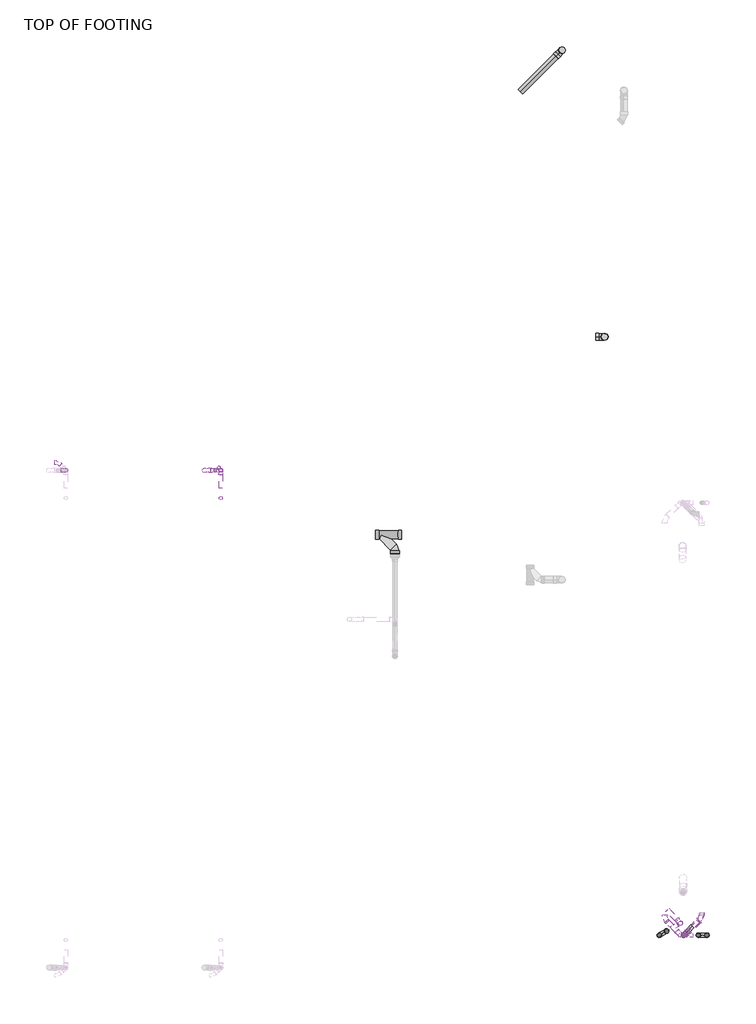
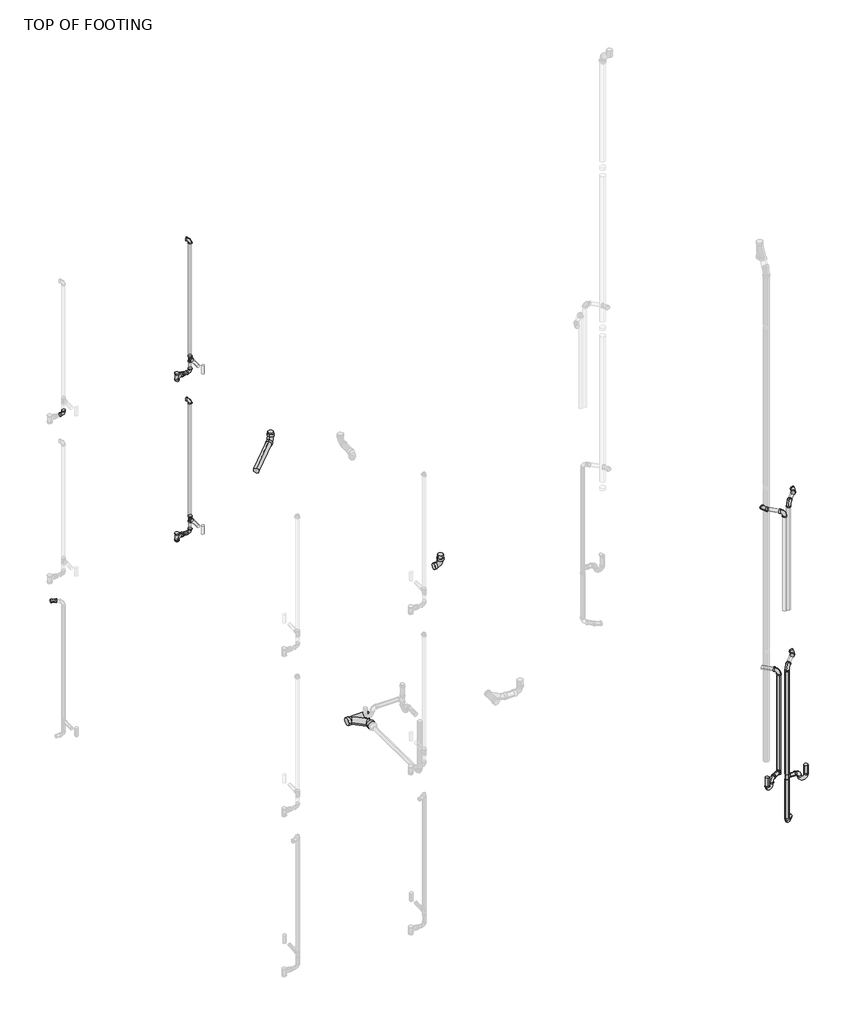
# One storey, part 6 of 8: 27 pipe fittings, 27 pipe segments.
"""IFC4 building model written with IfcOpenShell, lengths in millimetres."""

from ifc_helpers import new_model, si_unit, point, frame, frame_2d, origin, place, context, project, spatial, circle_curve, trimmed, segment, composite_curve, outline, extrude, transform, mapped, element, save
from components import bend_pvc_sch_40_dwv_standard_738aab8b, bend_pvc_sch_40_dwv_standard_9377f51f, bend_pvc_sch_40_dwv_standard_e59a9f3a, bend_pvc_sch_40_dwv_standard_f2f5988a, bend_pvc_sch_40_dwv_standard_afcfb702, bend_pvc_sch_40_dwv_standard_c5e05de8, bend_pvc_sch_40_dwv_standard_3c31cd25, bend_pvc_sch_40_dwv_standard_1eaeee76, bend_pvc_sch_40_dwv_standard_49f8c181, bend_pvc_sch_40_dwv_standard_f64d1520, bend_pvc_sch_40_dwv_standard_88107920, pipe_tee_copper_k_caf9fbed, pipe_tee_copper_k_86eab680, reducer_pvc_sch_40_dwv_standard_f288b410, standard_73d07651, standard_8c31f35f, tee_sanitary_pvc_sch_40_dwv_standard_ad422280, tee_sanitary_pvc_sch_40_dwv_standard_7b7ecc20, wye_combination_with_8th_bend_pvc_sch_40_dwv_standard_38fa7586

model = new_model("IFC4")

# Units and contexts
model_context = context("Model", 3, world=origin())
ifc_project = project(units=[si_unit("LENGTHUNIT", "METRE", prefix="MILLI")], contexts=[model_context])

# Site, building, storey
site = spatial("IfcSite", under=ifc_project)
building = spatial("IfcBuilding", under=site)
storey = spatial("IfcBuildingStorey", under=building, Name="TOP OF FOOTING", Elevation=-762.0)

# Pipe fittings
placement = place(None, origin())
bend_pvc_sch_40_dwv_standard_shape = bend_pvc_sch_40_dwv_standard_738aab8b(model_context)
element("IfcPipeFitting", 1, ObjectType="Bend - PVC - Sch 40 - DWV : Standard", at=placement, inside=storey, context=model_context, shape_type="MappedRepresentation", body=[
    mapped(bend_pvc_sch_40_dwv_standard_shape, transform((8467.5209875, 8911.4608349, 6026.9617935), x_axis=(1.0, 0.0, 0.0), y_axis=(0.0, 0.0, 1.0), z_axis=(0.0, -1.0, 0.0))),
])
element("IfcPipeFitting", 2, ObjectType="Bend - PVC - Sch 40 - DWV : Standard", at=placement, inside=storey, context=model_context, shape_type="MappedRepresentation", body=[
    mapped(bend_pvc_sch_40_dwv_standard_shape, transform((10595.0959875, 8911.527761, 3182.1617935), x_axis=(1.0, 0.0, 0.0), y_axis=(0.0, 9.717920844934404e-07, 0.9999999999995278), z_axis=(0.0, -0.9999999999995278, 9.717920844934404e-07))),
])
element("IfcPipeFitting", 3, ObjectType="Bend - PVC - Sch 40 - DWV : Standard", at=placement, inside=storey, context=model_context, shape_type="MappedRepresentation", body=[
    mapped(bend_pvc_sch_40_dwv_standard_shape, transform((10595.0959875, 8911.527761, 6026.9617935), x_axis=(1.0, 0.0, 0.0), y_axis=(0.0, 9.717921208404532e-07, 0.9999999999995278), z_axis=(0.0, -0.9999999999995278, 9.717921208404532e-07))),
])
bend_pvc_sch_40_dwv_standard_2_shape = bend_pvc_sch_40_dwv_standard_9377f51f(model_context)
element("IfcPipeFitting", 4, ObjectType="Bend - PVC - Sch 40 - DWV : Standard", at=placement, inside=storey, context=model_context, shape_type="MappedRepresentation", body=[
    mapped(bend_pvc_sch_40_dwv_standard_2_shape, transform((10595.1087024, 8911.5300734, 5527.4265087), x_axis=(0.0, 0.0, 1.0), y_axis=(-0.7070876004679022, 0.7071259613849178, 0.0), z_axis=(-0.7071259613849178, -0.7070876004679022, 0.0))),
])
element("IfcPipeFitting", 5, ObjectType="Bend - PVC - Sch 40 - DWV : Standard", at=placement, inside=storey, context=model_context, shape_type="MappedRepresentation", body=[
    mapped(bend_pvc_sch_40_dwv_standard_2_shape, transform((10595.1052501, 8911.5293768, 8371.9619664), x_axis=(0.0, 0.0, 1.0), y_axis=(-0.7070876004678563, 0.7071259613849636, 0.0), z_axis=(-0.7071259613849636, -0.7070876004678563, 0.0))),
])
bend_pvc_sch_40_dwv_standard_3_shape = bend_pvc_sch_40_dwv_standard_e59a9f3a(model_context)
element("IfcPipeFitting", 6, ObjectType="Bend - PVC - Sch 40 - DWV : Standard", at=placement, inside=storey, context=model_context, shape_type="MappedRepresentation", body=[
    mapped(bend_pvc_sch_40_dwv_standard_3_shape, transform((8361.3573795, 9017.693639, 2683.7325121), x_axis=(-0.7070684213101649, 0.7071067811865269, 0.007365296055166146), y_axis=(-0.7070684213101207, -0.7071067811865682, 0.007365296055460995), z_axis=(0.01041610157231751, 0.0, 0.9999457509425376))),
])
bend_pvc_sch_40_dwv_standard_4_shape = bend_pvc_sch_40_dwv_standard_f2f5988a(model_context)
element("IfcPipeFitting", 7, ObjectType="Bend - PVC - Sch 40 - DWV : Standard", at=placement, inside=storey, context=model_context, shape_type="MappedRepresentation", body=[
    mapped(bend_pvc_sch_40_dwv_standard_4_shape, transform((16688.3084882, 2756.9013629, 5188.0113455), x_axis=(2.761384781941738e-10, -0.9999999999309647, 1.1750347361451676e-05), y_axis=(0.9999999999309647, 1.3806781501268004e-10, -1.1750347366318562e-05), z_axis=(1.1750347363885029e-05, 1.175034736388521e-05, 0.9999999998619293))),
])
bend_pvc_sch_40_dwv_standard_5_shape = bend_pvc_sch_40_dwv_standard_afcfb702(model_context)
element("IfcPipeFitting", 8, ObjectType="Bend - PVC - Sch 40 - DWV : Standard", at=placement, inside=storey, context=model_context, shape_type="MappedRepresentation", body=[
    mapped(bend_pvc_sch_40_dwv_standard_5_shape, transform((16948.6402571, 2533.8032163, -332.0630039), x_axis=(-8.473962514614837e-06, -4.618834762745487e-06, -0.9999999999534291), y_axis=(0.7070876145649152, 0.7071259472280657, -9.257931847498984e-06), z_axis=(0.707125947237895, -0.7070876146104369, -2.7262379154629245e-06))),
])
bend_pvc_sch_40_dwv_standard_6_shape = bend_pvc_sch_40_dwv_standard_c5e05de8(model_context)
element("IfcPipeFitting", 9, ObjectType="Bend - PVC - Sch 40 - DWV : Standard", at=placement, inside=storey, context=model_context, shape_type="MappedRepresentation", body=[
    mapped(bend_pvc_sch_40_dwv_standard_6_shape, transform((15278.6009177, 14675.0362157, -316.1324987), x_axis=(0.0, 0.0, -1.0), y_axis=(-0.7071202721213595, -0.7070932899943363, 0.0), z_axis=(-0.7070932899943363, 0.7071202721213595, 0.0))),
])
bend_pvc_sch_40_dwv_standard_7_shape = bend_pvc_sch_40_dwv_standard_3c31cd25(model_context)
element("IfcPipeFitting", 10, ObjectType="Bend - PVC - Sch 40 - DWV : Standard", at=placement, inside=storey, context=model_context, shape_type="MappedRepresentation", body=[
    mapped(bend_pvc_sch_40_dwv_standard_7_shape, transform((15863.1187952, 10743.5791105, -344.490207), x_axis=(0.0, 0.0, -1.0), y_axis=(-1.0, 0.0, 0.0), z_axis=(0.0, 1.0, 0.0))),
])
bend_pvc_sch_40_dwv_standard_8_shape = bend_pvc_sch_40_dwv_standard_1eaeee76(model_context)
element("IfcPipeFitting", 11, ObjectType="Bend - PVC - Sch 40 - DWV : Standard", at=placement, inside=storey, context=model_context, shape_type="MappedRepresentation", body=[
    mapped(bend_pvc_sch_40_dwv_standard_8_shape, transform((16904.9190809, 2698.3170128, 2285.9947608), x_axis=(0.0, 0.0, 1.0), y_axis=(-0.7071067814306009, 0.7071067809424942, 0.0), z_axis=(-0.7071067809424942, -0.7071067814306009, 0.0))),
])
element("IfcPipeFitting", 12, ObjectType="Bend - PVC - Sch 40 - DWV : Standard", at=placement, inside=storey, context=model_context, shape_type="MappedRepresentation", body=[
    mapped(bend_pvc_sch_40_dwv_standard_8_shape, transform((16909.2449931, 2535.844278, 5187.9447608), x_axis=(0.0, 0.0, 1.0), y_axis=(-0.7071067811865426, 0.7071067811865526, 0.0), z_axis=(-0.7071067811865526, -0.7071067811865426, 0.0))),
])
bend_pvc_sch_40_dwv_standard_9_shape = bend_pvc_sch_40_dwv_standard_49f8c181(model_context)
element("IfcPipeFitting", 13, ObjectType="Bend - PVC - Sch 40 - DWV : Standard", at=placement, inside=storey, context=model_context, shape_type="MappedRepresentation", body=[
    mapped(bend_pvc_sch_40_dwv_standard_9_shape, transform((16975.4348028, 2535.4334002, 5340.345709), x_axis=(0.0, 0.0, 1.0), y_axis=(-0.7071067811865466, -0.7071067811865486, 0.0), z_axis=(0.7071067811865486, -0.7071067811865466, 0.0))),
])
bend_pvc_sch_40_dwv_standard_10_shape = bend_pvc_sch_40_dwv_standard_f64d1520(model_context)
element("IfcPipeFitting", 14, ObjectType="Bend - PVC - Sch 40 - DWV : Standard", at=placement, inside=storey, context=model_context, shape_type="MappedRepresentation", body=[
    mapped(bend_pvc_sch_40_dwv_standard_10_shape, transform((17195.9084874, 2781.0674092, 2438.3911908), x_axis=(2.761384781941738e-10, -0.9999999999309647, 1.1750347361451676e-05), y_axis=(0.9999999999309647, 1.3806781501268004e-10, -1.1750347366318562e-05), z_axis=(1.1750347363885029e-05, 1.175034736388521e-05, 0.9999999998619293))),
])
element("IfcPipeFitting", 15, ObjectType="Bend - PVC - Sch 40 - DWV : Standard", at=placement, inside=storey, context=model_context, shape_type="MappedRepresentation", body=[
    mapped(bend_pvc_sch_40_dwv_standard_10_shape, transform((17196.3084874, 2756.3070849, 5340.3418111), x_axis=(2.761384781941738e-10, -0.9999999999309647, 1.1750347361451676e-05), y_axis=(0.9999999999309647, 1.3806781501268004e-10, -1.1750347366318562e-05), z_axis=(1.1750347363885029e-05, 1.175034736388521e-05, 0.9999999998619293))),
])
bend_pvc_sch_40_dwv_standard_11_shape = bend_pvc_sch_40_dwv_standard_88107920(model_context)
element("IfcPipeFitting", 16, ObjectType="Bend - PVC - Sch 40 - DWV : Standard", at=placement, inside=storey, context=model_context, shape_type="MappedRepresentation", body=[
    mapped(bend_pvc_sch_40_dwv_standard_11_shape, transform((16948.6320853, 2533.7910071, 2438.397002), x_axis=(-0.7071067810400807, -0.7071067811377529, 1.661750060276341e-05), y_axis=(-9.643325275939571e-06, -1.3857369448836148e-05, -0.9999999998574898), z_axis=(0.7071067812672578, -0.7071067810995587, 2.979779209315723e-06))),
])
pipe_tee_copper_k_shape = pipe_tee_copper_k_caf9fbed(model_context)
element("IfcPipeFitting", 17, ObjectType="Pipe Tee : Copper- K", at=placement, inside=storey, context=model_context, shape_type="MappedRepresentation", body=[
    mapped(pipe_tee_copper_k_shape, transform((16948.6361467, 2533.7877896, 484.2221683), x_axis=(-5.481630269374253e-06, -1.4207999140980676e-05, 0.9999999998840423), y_axis=(-0.999999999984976, 7.788299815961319e-11, -5.4816302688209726e-06), z_axis=(0.0, -0.9999999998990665, -1.420799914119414e-05))),
])
pipe_tee_copper_k_2_shape = pipe_tee_copper_k_86eab680(model_context)
element("IfcPipeFitting", 18, ObjectType="Pipe Tee : Copper- K", at=placement, inside=storey, context=model_context, shape_type="MappedRepresentation", body=[
    mapped(pipe_tee_copper_k_2_shape, transform((16904.5977903, 2698.1330465, 484.2221683), x_axis=(0.007495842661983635, 0.004292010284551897, 0.9999626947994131), y_axis=(0.8674460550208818, 0.4974562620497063, -0.008637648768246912), z_axis=(-0.4974747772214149, 0.867478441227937, 5.766482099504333e-06))),
])
reducer_pvc_sch_40_dwv_standard_shape = reducer_pvc_sch_40_dwv_standard_f288b410(model_context)
element("IfcPipeFitting", 19, ObjectType="Reducer - PVC - Sch 40 - DWV : Standard", at=placement, inside=storey, context=model_context, shape_type="MappedRepresentation", body=[
    mapped(reducer_pvc_sch_40_dwv_standard_shape, transform((10453.2883099, 8911.527761, 3182.1617935), x_axis=(1.0, 0.0, 0.0), y_axis=(0.0, 1.0, 0.0), z_axis=(0.0, 0.0, 1.0))),
])
element("IfcPipeFitting", 20, ObjectType="Reducer - PVC - Sch 40 - DWV : Standard", at=placement, inside=storey, context=model_context, shape_type="MappedRepresentation", body=[
    mapped(reducer_pvc_sch_40_dwv_standard_shape, transform((10453.2883099, 8911.527761, 6026.9617935), x_axis=(1.0, 0.0, 0.0), y_axis=(0.0, 1.0, 0.0), z_axis=(0.0, 0.0, 1.0))),
])
standard_shape = standard_73d07651(model_context)
element("IfcPipeFitting", 21, ObjectType="GES P TRAP PVC Sch 40 - DWV : Standard", at=placement, inside=storey, context=model_context, shape_type="MappedRepresentation", body=[
    mapped(standard_shape, transform((16616.0441955, 2532.6484291, 484.2221683), x_axis=(0.0, 0.0, -1.0), y_axis=(0.8674784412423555, 0.49747477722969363, 0.0), z_axis=(0.49747477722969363, -0.8674784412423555, 0.0))),
])
standard_2_shape = standard_8c31f35f(model_context)
element("IfcPipeFitting", 22, ObjectType="GES P TRAP PVC Sch 40 - DWV : Standard", at=placement, inside=storey, context=model_context, shape_type="MappedRepresentation", body=[
    mapped(standard_2_shape, transform((17267.5084875, 2533.5712766, 484.2221683), x_axis=(0.0, 0.0, -1.0), y_axis=(1.0, 0.0, 0.0), z_axis=(0.0, -1.0, 0.0))),
])
tee_sanitary_pvc_sch_40_dwv_standard_shape = tee_sanitary_pvc_sch_40_dwv_standard_ad422280(model_context)
element("IfcPipeFitting", 23, ObjectType="Tee Sanitary - PVC - Sch 40 - DWV : Standard", at=placement, inside=storey, context=model_context, shape_type="MappedRepresentation", body=[
    mapped(tee_sanitary_pvc_sch_40_dwv_standard_shape, transform((10595.0959875, 8911.5279347, 6267.6170389), x_axis=(0.0, 0.0, 1.0), y_axis=(0.0, 1.0, 0.0), z_axis=(-1.0, 0.0, 0.0))),
])
element("IfcPipeFitting", 24, ObjectType="Tee Sanitary - PVC - Sch 40 - DWV : Standard", at=placement, inside=storey, context=model_context, shape_type="MappedRepresentation", body=[
    mapped(tee_sanitary_pvc_sch_40_dwv_standard_shape, transform((10595.0959875, 8911.5279347, 3422.8170389), x_axis=(0.0, 0.0, 1.0), y_axis=(0.0, 1.0, 0.0), z_axis=(-1.0, 0.0, 0.0))),
])
tee_sanitary_pvc_sch_40_dwv_standard_2_shape = tee_sanitary_pvc_sch_40_dwv_standard_7b7ecc20(model_context)
element("IfcPipeFitting", 25, ObjectType="Tee Sanitary - PVC - Sch 40 - DWV : Standard", at=placement, inside=storey, context=model_context, shape_type="MappedRepresentation", body=[
    mapped(tee_sanitary_pvc_sch_40_dwv_standard_2_shape, transform((10375.4881099, 8911.527761, 3182.1617935), x_axis=(0.0, 0.0, 1.0), y_axis=(-1.0, 0.0, 0.0), z_axis=(0.0, -1.0, 0.0))),
])
element("IfcPipeFitting", 26, ObjectType="Tee Sanitary - PVC - Sch 40 - DWV : Standard", at=placement, inside=storey, context=model_context, shape_type="MappedRepresentation", body=[
    mapped(tee_sanitary_pvc_sch_40_dwv_standard_2_shape, transform((10375.4881099, 8911.527761, 6026.9617935), x_axis=(0.0, 0.0, 1.0), y_axis=(-1.0, 0.0, 0.0), z_axis=(0.0, -1.0, 0.0))),
])
wye_combination_with_8th_bend_pvc_sch_40_dwv_standard_shape = wye_combination_with_8th_bend_pvc_sch_40_dwv_standard_38fa7586(model_context)
element("IfcPipeFitting", 27, ObjectType="Wye Combination with 8th Bend - PVC - Sch 40 - DWV : Standard", at=placement, inside=storey, context=model_context, shape_type="MappedRepresentation", body=[
    mapped(wye_combination_with_8th_bend_pvc_sch_40_dwv_standard_shape, transform((12986.8605561, 8027.5552915, -398.2163651), x_axis=(0.9999457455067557, 3.826801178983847e-06, 0.010416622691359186), y_axis=(0.00010466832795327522, 0.9999457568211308, -0.010415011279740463), z_axis=(-0.010416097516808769, 0.010415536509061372, 0.9998915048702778))),
])

# Pipe segments
element("IfcPipeSegment", 28, ObjectType="PVC - SAN/STORM", at=placement, inside=storey, context=model_context, shape_type="SweptSolid", body=[
    extrude(outline(composite_curve([segment(trimmed(circle_curve(frame_2d((6268.2617935, 10595.0959875)), 24.13), [point((6268.2617935, 10619.2259875))], [point((6292.3917935, 10595.0959875))], False, "CARTESIAN"), True, "CONTINUOUS"), segment(trimmed(circle_curve(frame_2d((6268.2617935, 10595.0959875)), 24.13), [point((6292.3917935, 10595.0959875))], [point((6268.2617935, 10570.9659875))], False, "CARTESIAN"), True, "CONTINUOUS"), segment(trimmed(circle_curve(frame_2d((6268.2617935, 10595.0959875)), 24.13), [point((6268.2617935, 10570.9659875))], [point((6244.1317935, 10595.0959875))], False, "CARTESIAN"), True, "CONTINUOUS"), segment(trimmed(circle_curve(frame_2d((6268.2617935, 10595.0959875)), 24.13), [point((6244.1317935, 10595.0959875))], [point((6268.2617935, 10619.2259875))], False, "CARTESIAN"), True, "CONTINUOUS")], self_intersect=False)), frame((0.0, 8665.4385881, 0.0), z_axis=(0.0, 1.0, 0.0), x_axis=(0.0, 0.0, 1.0)), (0.0, 0.0, 1.0), 184.1929046),
])
element("IfcPipeSegment", 29, ObjectType="PVC - SAN/STORM", at=placement, inside=storey, context=model_context, shape_type="SweptSolid", body=[
    extrude(outline(composite_curve([segment(trimmed(circle_curve(frame_2d((10595.0959875, 8530.5137881)), 24.13), [point((10570.9659875, 8530.5137881))], [point((10595.0959875, 8554.6437881))], False, "CARTESIAN"), True, "CONTINUOUS"), segment(trimmed(circle_curve(frame_2d((10595.0959875, 8530.5137881)), 24.13), [point((10595.0959875, 8554.6437881))], [point((10619.2259875, 8530.5137881))], False, "CARTESIAN"), True, "CONTINUOUS"), segment(trimmed(circle_curve(frame_2d((10595.0959875, 8530.5137881)), 24.13), [point((10619.2259875, 8530.5137881))], [point((10595.0959875, 8506.3837881))], False, "CARTESIAN"), True, "CONTINUOUS"), segment(trimmed(circle_curve(frame_2d((10595.0959875, 8530.5137881)), 24.13), [point((10595.0959875, 8506.3837881))], [point((10570.9659875, 8530.5137881))], False, "CARTESIAN"), True, "CONTINUOUS")], self_intersect=False)), frame((0.0, 0.0, 6223.7990935), z_axis=(0.0, 0.0, 1.0), x_axis=(1.0, 0.0, 0.0)), (0.0, 0.0, 1.0), 141.6019923),
])
element("IfcPipeSegment", 30, ObjectType="PVC - SAN/STORM", at=placement, inside=storey, context=model_context, shape_type="SweptSolid", body=[
    extrude(outline(composite_curve([segment(trimmed(circle_curve(frame_2d((0.0, 24.13)), 24.13), [point((-24.13, 24.13))], [point((0.0, 48.26))], False, "CARTESIAN"), True, "CONTINUOUS"), segment(trimmed(circle_curve(frame_2d((0.0, 24.13)), 24.13), [point((0.0, 48.26))], [point((24.13, 24.13))], False, "CARTESIAN"), True, "CONTINUOUS"), segment(trimmed(circle_curve(frame_2d((0.0, 24.13)), 24.13), [point((24.13, 24.13))], [point((0.0, 0.0))], False, "CARTESIAN"), True, "CONTINUOUS"), segment(trimmed(circle_curve(frame_2d((0.0, 24.13)), 24.13), [point((0.0, 0.0))], [point((-24.13, 24.13))], False, "CARTESIAN"), True, "CONTINUOUS")], self_intersect=False)), frame((10595.0959875, 8887.3978211, 6088.861617), z_axis=(0.0, 9.71792112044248e-07, 0.9999999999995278), x_axis=(1.0, 0.0, 0.0)), (0.0, 0.0, 1.0), 116.8556454),
])
element("IfcPipeSegment", 31, ObjectType="PVC - SAN/STORM", at=placement, inside=storey, context=model_context, shape_type="SweptSolid", body=[
    extrude(outline(composite_curve([segment(trimmed(circle_curve(frame_2d((0.0, 24.13)), 24.13), [point((-24.13, 24.13))], [point((0.0, 48.26))], False, "CARTESIAN"), True, "CONTINUOUS"), segment(trimmed(circle_curve(frame_2d((0.0, 24.13)), 24.13), [point((0.0, 48.26))], [point((24.13, 24.13))], False, "CARTESIAN"), True, "CONTINUOUS"), segment(trimmed(circle_curve(frame_2d((0.0, 24.13)), 24.13), [point((24.13, 24.13))], [point((0.0, 0.0))], False, "CARTESIAN"), True, "CONTINUOUS"), segment(trimmed(circle_curve(frame_2d((0.0, 24.13)), 24.13), [point((0.0, 0.0))], [point((-24.13, 24.13))], False, "CARTESIAN"), True, "CONTINUOUS")], self_intersect=False)), frame((10595.0959875, 8887.3979347, 6313.8112177), z_axis=(4.640019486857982e-06, 7.223967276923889e-07, 0.9999999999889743), x_axis=(0.9999999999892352, -3.350208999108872e-12, -4.640019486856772e-06)), (0.0, 0.0, 1.0), 1996.2509661),
])
element("IfcPipeSegment", 32, ObjectType="PVC - SAN/STORM", at=placement, inside=storey, context=model_context, shape_type="SweptSolid", body=[
    extrude(outline(composite_curve([segment(trimmed(circle_curve(frame_2d((3423.4617935, 10595.0959875)), 24.13), [point((3423.4617935, 10619.2259875))], [point((3447.5917935, 10595.0959875))], False, "CARTESIAN"), True, "CONTINUOUS"), segment(trimmed(circle_curve(frame_2d((3423.4617935, 10595.0959875)), 24.13), [point((3447.5917935, 10595.0959875))], [point((3423.4617935, 10570.9659875))], False, "CARTESIAN"), True, "CONTINUOUS"), segment(trimmed(circle_curve(frame_2d((3423.4617935, 10595.0959875)), 24.13), [point((3423.4617935, 10570.9659875))], [point((3399.3317935, 10595.0959875))], False, "CARTESIAN"), True, "CONTINUOUS"), segment(trimmed(circle_curve(frame_2d((3423.4617935, 10595.0959875)), 24.13), [point((3399.3317935, 10595.0959875))], [point((3423.4617935, 10619.2259875))], False, "CARTESIAN"), True, "CONTINUOUS")], self_intersect=False)), frame((0.0, 8665.4385881, 0.0), z_axis=(0.0, 1.0, 0.0), x_axis=(0.0, 0.0, 1.0)), (0.0, 0.0, 1.0), 184.1929046),
])
element("IfcPipeSegment", 33, ObjectType="PVC - SAN/STORM", at=placement, inside=storey, context=model_context, shape_type="SweptSolid", body=[
    extrude(outline(composite_curve([segment(trimmed(circle_curve(frame_2d((10595.0959875, 8530.5137881)), 24.13), [point((10570.9659875, 8530.5137881))], [point((10595.0959875, 8554.6437881))], False, "CARTESIAN"), True, "CONTINUOUS"), segment(trimmed(circle_curve(frame_2d((10595.0959875, 8530.5137881)), 24.13), [point((10595.0959875, 8554.6437881))], [point((10619.2259875, 8530.5137881))], False, "CARTESIAN"), True, "CONTINUOUS"), segment(trimmed(circle_curve(frame_2d((10595.0959875, 8530.5137881)), 24.13), [point((10619.2259875, 8530.5137881))], [point((10595.0959875, 8506.3837881))], False, "CARTESIAN"), True, "CONTINUOUS"), segment(trimmed(circle_curve(frame_2d((10595.0959875, 8530.5137881)), 24.13), [point((10595.0959875, 8506.3837881))], [point((10570.9659875, 8530.5137881))], False, "CARTESIAN"), True, "CONTINUOUS")], self_intersect=False)), frame((0.0, 0.0, 3378.9990935), z_axis=(0.0, 0.0, 1.0), x_axis=(1.0, 0.0, 0.0)), (0.0, 0.0, 1.0), 141.6019923),
])
element("IfcPipeSegment", 34, ObjectType="PVC - SAN/STORM", at=placement, inside=storey, context=model_context, shape_type="SweptSolid", body=[
    extrude(outline(composite_curve([segment(trimmed(circle_curve(frame_2d((0.0, 24.13)), 24.13), [point((-24.13, 24.13))], [point((0.0, 48.26))], False, "CARTESIAN"), True, "CONTINUOUS"), segment(trimmed(circle_curve(frame_2d((0.0, 24.13)), 24.13), [point((0.0, 48.26))], [point((24.13, 24.13))], False, "CARTESIAN"), True, "CONTINUOUS"), segment(trimmed(circle_curve(frame_2d((0.0, 24.13)), 24.13), [point((24.13, 24.13))], [point((0.0, 0.0))], False, "CARTESIAN"), True, "CONTINUOUS"), segment(trimmed(circle_curve(frame_2d((0.0, 24.13)), 24.13), [point((0.0, 0.0))], [point((-24.13, 24.13))], False, "CARTESIAN"), True, "CONTINUOUS")], self_intersect=False)), frame((10595.0959875, 8887.3978211, 3244.061617), z_axis=(0.0, 9.717920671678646e-07, 0.9999999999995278), x_axis=(1.0, 0.0, 0.0)), (0.0, 0.0, 1.0), 116.8556454),
])
element("IfcPipeSegment", 35, ObjectType="PVC - SAN/STORM", at=placement, inside=storey, context=model_context, shape_type="SweptSolid", body=[
    extrude(outline(composite_curve([segment(trimmed(circle_curve(frame_2d((0.0, 24.13)), 24.13), [point((-24.13, 24.13))], [point((0.0, 48.26))], False, "CARTESIAN"), True, "CONTINUOUS"), segment(trimmed(circle_curve(frame_2d((0.0, 24.13)), 24.13), [point((0.0, 48.26))], [point((24.13, 24.13))], False, "CARTESIAN"), True, "CONTINUOUS"), segment(trimmed(circle_curve(frame_2d((0.0, 24.13)), 24.13), [point((24.13, 24.13))], [point((0.0, 0.0))], False, "CARTESIAN"), True, "CONTINUOUS"), segment(trimmed(circle_curve(frame_2d((0.0, 24.13)), 24.13), [point((0.0, 0.0))], [point((-24.13, 24.13))], False, "CARTESIAN"), True, "CONTINUOUS")], self_intersect=False)), frame((10595.0959875, 8887.3979347, 3469.0112262), z_axis=(6.368583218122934e-06, 1.0712312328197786e-06, 0.9999999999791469), x_axis=(0.9999999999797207, -6.8212102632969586e-12, -6.368583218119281e-06)), (0.0, 0.0, 1.0), 1996.5155084),
])
element("IfcPipeSegment", 36, ObjectType="PVC - SAN/STORM", at=placement, inside=storey, context=model_context, shape_type="SweptSolid", body=[
    extrude(outline(composite_curve([segment(trimmed(circle_curve(frame_2d((0.0, 30.1625)), 30.1625), [point((30.1625, 30.1625))], [point((0.0, 0.0))], False, "CARTESIAN"), True, "CONTINUOUS"), segment(trimmed(circle_curve(frame_2d((0.0, 30.1625)), 30.1625), [point((0.0, 0.0))], [point((-30.1625, 30.1625))], False, "CARTESIAN"), True, "CONTINUOUS"), segment(trimmed(circle_curve(frame_2d((0.0, 30.1625)), 30.1625), [point((-30.1625, 30.1625))], [point((0.0, 60.325))], False, "CARTESIAN"), True, "CONTINUOUS"), segment(trimmed(circle_curve(frame_2d((0.0, 30.1625)), 30.1625), [point((0.0, 60.325))], [point((30.1625, 30.1625))], False, "CARTESIAN"), True, "CONTINUOUS")], self_intersect=False)), frame((17075.4209875, 2533.5712766, 514.3846683), z_axis=(-0.9999966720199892, 0.002579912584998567, 0.0), x_axis=(0.002579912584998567, 0.9999966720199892, 0.0)), (0.0, 0.0, 1.0), 83.92262),
])
element("IfcPipeSegment", 37, ObjectType="PVC - SAN/STORM", at=placement, inside=storey, context=model_context, shape_type="SweptSolid", body=[
    extrude(outline(composite_curve([segment(trimmed(circle_curve(frame_2d((17267.5084875, 2533.5712766)), 30.1625), [point((17237.3459875, 2533.5712766))], [point((17267.5084875, 2563.7337766))], False, "CARTESIAN"), True, "CONTINUOUS"), segment(trimmed(circle_curve(frame_2d((17267.5084875, 2533.5712766)), 30.1625), [point((17267.5084875, 2563.7337766))], [point((17297.6709875, 2533.5712766))], False, "CARTESIAN"), True, "CONTINUOUS"), segment(trimmed(circle_curve(frame_2d((17267.5084875, 2533.5712766)), 30.1625), [point((17297.6709875, 2533.5712766))], [point((17267.5084875, 2503.4087766))], False, "CARTESIAN"), True, "CONTINUOUS"), segment(trimmed(circle_curve(frame_2d((17267.5084875, 2533.5712766)), 30.1625), [point((17267.5084875, 2503.4087766))], [point((17237.3459875, 2533.5712766))], False, "CARTESIAN"), True, "CONTINUOUS")], self_intersect=False)), frame((0.0, 0.0, 436.5971683), z_axis=(0.0, 0.0, 1.0), x_axis=(1.0, 0.0, 0.0)), (0.0, 0.0, 1.0), 143.9539175),
])
element("IfcPipeSegment", 38, ObjectType="PVC - SAN/STORM", at=placement, inside=storey, context=model_context, shape_type="SweptSolid", body=[
    extrude(outline(composite_curve([segment(trimmed(circle_curve(frame_2d((0.0, -30.1625)), 30.1625), [point((-30.1625, -30.1625))], [point((0.0, 0.0))], False, "CARTESIAN"), True, "CONTINUOUS"), segment(trimmed(circle_curve(frame_2d((0.0, -30.1625)), 30.1625), [point((0.0, 0.0))], [point((30.1625, -30.1625))], False, "CARTESIAN"), True, "CONTINUOUS"), segment(trimmed(circle_curve(frame_2d((0.0, -30.1625)), 30.1625), [point((30.1625, -30.1625))], [point((0.0, -60.325))], False, "CARTESIAN"), True, "CONTINUOUS"), segment(trimmed(circle_curve(frame_2d((0.0, -30.1625)), 30.1625), [point((0.0, -60.325))], [point((-30.1625, -30.1625))], False, "CARTESIAN"), True, "CONTINUOUS")], self_intersect=False)), frame((16948.6409164, 2503.6410756, -254.2634619), z_axis=(-6.518894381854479e-06, -2.1817857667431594e-05, 0.9999999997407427), x_axis=(-0.9999999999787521, 1.4222756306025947e-10, -6.518894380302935e-06)), (0.0, 0.0, 1.0), 695.6224723),
])
element("IfcPipeSegment", 39, ObjectType="PVC - SAN/STORM", at=placement, inside=storey, context=model_context, shape_type="SweptSolid", body=[
    extrude(outline(composite_curve([segment(trimmed(circle_curve(frame_2d((0.0, 30.1625)), 30.1625), [point((-30.1616821, 30.3846377))], [point((0.2221376, 60.324182))], False, "CARTESIAN"), True, "CONTINUOUS"), segment(trimmed(circle_curve(frame_2d((0.0, 30.1625)), 30.1625), [point((0.2221376, 60.324182))], [point((30.161682, 29.9403623))], False, "CARTESIAN"), True, "CONTINUOUS"), segment(trimmed(circle_curve(frame_2d((0.0, 30.1625)), 30.1625), [point((30.161682, 29.9403623))], [point((-0.2221377, 0.000818))], False, "CARTESIAN"), True, "CONTINUOUS"), segment(trimmed(circle_curve(frame_2d((0.0, 30.1625)), 30.1625), [point((-0.2221377, 0.000818))], [point((-30.1616821, 30.3846377))], False, "CARTESIAN"), True, "CONTINUOUS")], self_intersect=False)), frame((17069.039882, 2653.8952144, -363.4780305), z_axis=(-0.7070684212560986, -0.7071067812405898, 0.0073652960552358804), x_axis=(0.7071451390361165, -0.7070300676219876, 0.0073644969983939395)), (0.0, 0.0, 1.0), 92.4798199),
])
element("IfcPipeSegment", 40, ObjectType="PVC - SAN/STORM", at=placement, inside=storey, context=model_context, shape_type="SweptSolid", body=[
    extrude(outline(composite_curve([segment(trimmed(circle_curve(frame_2d((0.0, 30.1625)), 30.1625), [point((30.1625, 30.1625))], [point((0.0, 0.0))], False, "CARTESIAN"), True, "CONTINUOUS"), segment(trimmed(circle_curve(frame_2d((0.0, 30.1625)), 30.1625), [point((0.0, 0.0))], [point((-30.1625, 30.1625))], False, "CARTESIAN"), True, "CONTINUOUS"), segment(trimmed(circle_curve(frame_2d((0.0, 30.1625)), 30.1625), [point((-30.1625, 30.1625))], [point((0.0, 60.325))], False, "CARTESIAN"), True, "CONTINUOUS"), segment(trimmed(circle_curve(frame_2d((0.0, 30.1625)), 30.1625), [point((0.0, 60.325))], [point((30.1625, 30.1625))], False, "CARTESIAN"), True, "CONTINUOUS")], self_intersect=False)), frame((16782.6759606, 2628.2071153, 514.3846683), z_axis=(0.8674468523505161, 0.4975298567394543, 0.0), x_axis=(0.4975298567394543, -0.8674468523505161, 0.0)), (0.0, 0.0, 1.0), 97.688446),
])
element("IfcPipeSegment", 41, ObjectType="PVC - SAN/STORM", at=placement, inside=storey, context=model_context, shape_type="SweptSolid", body=[
    extrude(outline(composite_curve([segment(trimmed(circle_curve(frame_2d((16616.0441955, 2532.6484291)), 30.1625), [point((16585.8816955, 2532.6484291))], [point((16616.0441955, 2562.8109291))], False, "CARTESIAN"), True, "CONTINUOUS"), segment(trimmed(circle_curve(frame_2d((16616.0441955, 2532.6484291)), 30.1625), [point((16616.0441955, 2562.8109291))], [point((16646.2066955, 2532.6484291))], False, "CARTESIAN"), True, "CONTINUOUS"), segment(trimmed(circle_curve(frame_2d((16616.0441955, 2532.6484291)), 30.1625), [point((16646.2066955, 2532.6484291))], [point((16616.0441955, 2502.4859291))], False, "CARTESIAN"), True, "CONTINUOUS"), segment(trimmed(circle_curve(frame_2d((16616.0441955, 2532.6484291)), 30.1625), [point((16616.0441955, 2502.4859291))], [point((16585.8816955, 2532.6484291))], False, "CARTESIAN"), True, "CONTINUOUS")], self_intersect=False)), frame((0.0, 0.0, 436.5971683), z_axis=(0.0, 0.0, 1.0), x_axis=(1.0, 0.0, 0.0)), (0.0, 0.0, 1.0), 143.9539175),
])
element("IfcPipeSegment", 42, ObjectType="PVC - SAN/STORM", at=placement, inside=storey, context=model_context, shape_type="SweptSolid", body=[
    extrude(outline(composite_curve([segment(trimmed(circle_curve(frame_2d((0.0, 44.45)), 44.45), [point((44.4487943, 44.1226059))], [point((-0.327394, 0.0012057))], False, "CARTESIAN"), True, "CONTINUOUS"), segment(trimmed(circle_curve(frame_2d((0.0, 44.45)), 44.45), [point((-0.327394, 0.0012057))], [point((-44.4487943, 44.7773941))], False, "CARTESIAN"), True, "CONTINUOUS"), segment(trimmed(circle_curve(frame_2d((0.0, 44.45)), 44.45), [point((-44.4487943, 44.7773941))], [point((0.3273941, 88.8987944))], False, "CARTESIAN"), True, "CONTINUOUS"), segment(trimmed(circle_curve(frame_2d((0.0, 44.45)), 44.45), [point((0.3273941, 88.8987944))], [point((44.4487943, 44.1226059))], False, "CARTESIAN"), True, "CONTINUOUS")], self_intersect=False)), frame((14709.4450385, 14105.4390579, -277.6133985), z_axis=(0.70710109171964, 0.7070741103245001, 0.007365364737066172), x_axis=(0.7071124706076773, -0.7070627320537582, -0.007365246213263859)), (0.0, 0.0, 1.0), 689.0142399),
])
element("IfcPipeSegment", 43, ObjectType="PVC - SAN/STORM", at=placement, inside=storey, context=model_context, shape_type="SweptSolid", body=[
    extrude(outline(composite_curve([segment(trimmed(circle_curve(frame_2d((0.0, -44.45)), 44.45), [point((-44.45, -44.4500027))], [point((-2.8e-06, 0.0))], False, "CARTESIAN"), True, "CONTINUOUS"), segment(trimmed(circle_curve(frame_2d((0.0, -44.45)), 44.45), [point((-2.8e-06, 0.0))], [point((44.45, -44.4499973))], False, "CARTESIAN"), True, "CONTINUOUS"), segment(trimmed(circle_curve(frame_2d((0.0, -44.45)), 44.45), [point((44.45, -44.4499973))], [point((2.7e-06, -88.9))], False, "CARTESIAN"), True, "CONTINUOUS"), segment(trimmed(circle_curve(frame_2d((0.0, -44.45)), 44.45), [point((2.7e-06, -88.9))], [point((-44.45, -44.4500027))], False, "CARTESIAN"), True, "CONTINUOUS")], self_intersect=False)), frame((15278.6009177, 14630.586225, -200.2035366), z_axis=(9.539682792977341e-05, 0.0006470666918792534, 0.999999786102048), x_axis=(-0.9999999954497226, 6.172810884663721e-08, 9.539680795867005e-05)), (0.0, 0.0, 1.0), 25.6073042),
])
element("IfcPipeSegment", 44, ObjectType="PVC - SAN/STORM", at=placement, inside=storey, context=model_context, shape_type="SweptSolid", body=[
    extrude(outline(composite_curve([segment(trimmed(circle_curve(frame_2d((0.0, -44.4500001)), 44.45), [point((-44.45, -44.4500056))], [point((-5.5e-06, 0.0))], False, "CARTESIAN"), True, "CONTINUOUS"), segment(trimmed(circle_curve(frame_2d((0.0, -44.4500001)), 44.45), [point((-5.5e-06, 0.0))], [point((44.4499999, -44.4499946))], False, "CARTESIAN"), True, "CONTINUOUS"), segment(trimmed(circle_curve(frame_2d((0.0, -44.4500001)), 44.45), [point((44.4499999, -44.4499946))], [point((5.5e-06, -88.9))], False, "CARTESIAN"), True, "CONTINUOUS"), segment(trimmed(circle_curve(frame_2d((0.0, -44.4500001)), 44.45), [point((5.5e-06, -88.9))], [point((-44.45, -44.4500056))], False, "CARTESIAN"), True, "CONTINUOUS")], self_intersect=False)), frame((15863.1187952, 10699.1291132, -228.5743469), z_axis=(0.0003514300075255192, 0.00035230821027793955, 0.9999998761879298), x_axis=(-0.999999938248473, 1.238116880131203e-07, 0.0003514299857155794)), (0.0, 0.0, 1.0), 53.9650136),
])
element("IfcPipeSegment", 45, ObjectType="PVC - SAN/STORM", at=placement, inside=storey, context=model_context, shape_type="SweptSolid", body=[
    extrude(outline(composite_curve([segment(trimmed(circle_curve(frame_2d((0.0, -30.1625)), 30.1625), [point((30.1625001, -30.1630012))], [point((-0.0005012, -60.325))], False, "CARTESIAN"), True, "CONTINUOUS"), segment(trimmed(circle_curve(frame_2d((0.0, -30.1625)), 30.1625), [point((-0.0005012, -60.325))], [point((-30.1625, -30.1619988))], False, "CARTESIAN"), True, "CONTINUOUS"), segment(trimmed(circle_curve(frame_2d((0.0, -30.1625)), 30.1625), [point((-30.1625, -30.1619988))], [point((0.0005013, 0.0))], False, "CARTESIAN"), True, "CONTINUOUS"), segment(trimmed(circle_curve(frame_2d((0.0, -30.1625)), 30.1625), [point((0.0005013, 0.0))], [point((30.1625001, -30.1630012))], False, "CARTESIAN"), True, "CONTINUOUS")], self_intersect=False)), frame((17155.4973349, 2740.6569656, 2468.5546405), z_axis=(-0.70710678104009, -0.7071067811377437, 1.661750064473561e-05), x_axis=(0.7071067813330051, -0.7071067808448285, 1.6617500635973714e-05)), (0.0, 0.0, 1.0), 214.7514417),
])
element("IfcPipeSegment", 46, ObjectType="PVC - SAN/STORM", at=placement, inside=storey, context=model_context, shape_type="SweptSolid", body=[
    extrude(outline(composite_curve([segment(trimmed(circle_curve(frame_2d((0.0, 30.1625)), 30.1625), [point((30.1625, 30.1625))], [point((0.0, 0.0))], False, "CARTESIAN"), True, "CONTINUOUS"), segment(trimmed(circle_curve(frame_2d((0.0, 30.1625)), 30.1625), [point((0.0, 0.0))], [point((-30.1625, 30.1625))], False, "CARTESIAN"), True, "CONTINUOUS"), segment(trimmed(circle_curve(frame_2d((0.0, 30.1625)), 30.1625), [point((-30.1625, 30.1625))], [point((0.0, 60.325))], False, "CARTESIAN"), True, "CONTINUOUS"), segment(trimmed(circle_curve(frame_2d((0.0, 30.1625)), 30.1625), [point((0.0, 60.325))], [point((30.1625, 30.1625))], False, "CARTESIAN"), True, "CONTINUOUS")], self_intersect=False)), frame((16849.9060318, 2753.3300618, 2316.1572608), z_axis=(-0.696357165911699, 0.7176954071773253, 0.0), x_axis=(0.7176954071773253, 0.696357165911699, 0.0)), (0.0, 0.0, 1.0), 175.485711),
])
element("IfcPipeSegment", 47, ObjectType="PVC - SAN/STORM", at=placement, inside=storey, context=model_context, shape_type="SweptSolid", body=[
    extrude(outline(composite_curve([segment(trimmed(circle_curve(frame_2d((8911.527761, 3182.1617935)), 24.13), [point((8887.397761, 3182.1617935))], [point((8911.527761, 3206.2917935))], False, "CARTESIAN"), True, "CONTINUOUS"), segment(trimmed(circle_curve(frame_2d((8911.527761, 3182.1617935)), 24.13), [point((8911.527761, 3206.2917935))], [point((8935.657761, 3182.1617935))], False, "CARTESIAN"), True, "CONTINUOUS"), segment(trimmed(circle_curve(frame_2d((8911.527761, 3182.1617935)), 24.13), [point((8935.657761, 3182.1617935))], [point((8911.527761, 3158.0317935))], False, "CARTESIAN"), True, "CONTINUOUS"), segment(trimmed(circle_curve(frame_2d((8911.527761, 3182.1617935)), 24.13), [point((8911.527761, 3158.0317935))], [point((8887.397761, 3182.1617935))], False, "CARTESIAN"), True, "CONTINUOUS")], self_intersect=False)), frame((10503.2755099, 0.0, 0.0), z_axis=(1.0, 0.0, 0.0), x_axis=(0.0, 1.0, 0.0)), (0.0, 0.0, 1.0), 29.9206776),
])
element("IfcPipeSegment", 48, ObjectType="PVC - SAN/STORM", at=placement, inside=storey, context=model_context, shape_type="SweptSolid", body=[
    extrude(outline(composite_curve([segment(trimmed(circle_curve(frame_2d((8911.527761, 6026.9617935)), 24.13), [point((8887.397761, 6026.9617935))], [point((8911.527761, 6051.0917935))], False, "CARTESIAN"), True, "CONTINUOUS"), segment(trimmed(circle_curve(frame_2d((8911.527761, 6026.9617935)), 24.13), [point((8911.527761, 6051.0917935))], [point((8935.657761, 6026.9617935))], False, "CARTESIAN"), True, "CONTINUOUS"), segment(trimmed(circle_curve(frame_2d((8911.527761, 6026.9617935)), 24.13), [point((8935.657761, 6026.9617935))], [point((8911.527761, 6002.8317935))], False, "CARTESIAN"), True, "CONTINUOUS"), segment(trimmed(circle_curve(frame_2d((8911.527761, 6026.9617935)), 24.13), [point((8911.527761, 6002.8317935))], [point((8887.397761, 6026.9617935))], False, "CARTESIAN"), True, "CONTINUOUS")], self_intersect=False)), frame((10503.2755099, 0.0, 0.0), z_axis=(1.0, 0.0, 0.0), x_axis=(0.0, 1.0, 0.0)), (0.0, 0.0, 1.0), 29.9206776),
])
element("IfcPipeSegment", 49, ObjectType="PVC - SAN/STORM", at=placement, inside=storey, context=model_context, shape_type="SweptSolid", body=[
    extrude(outline(composite_curve([segment(trimmed(circle_curve(frame_2d((0.0, -30.1625)), 30.1625), [point((-30.1625, -30.1625))], [point((0.0, 0.0))], False, "CARTESIAN"), True, "CONTINUOUS"), segment(trimmed(circle_curve(frame_2d((0.0, -30.1625)), 30.1625), [point((0.0, 0.0))], [point((30.1625, -30.1625))], False, "CARTESIAN"), True, "CONTINUOUS"), segment(trimmed(circle_curve(frame_2d((0.0, -30.1625)), 30.1625), [point((30.1625, -30.1625))], [point((0.0, -60.325))], False, "CARTESIAN"), True, "CONTINUOUS"), segment(trimmed(circle_curve(frame_2d((0.0, -30.1625)), 30.1625), [point((0.0, -60.325))], [point((-30.1625, -30.1625))], False, "CARTESIAN"), True, "CONTINUOUS")], self_intersect=False)), frame((16948.6359118, 2503.6246806, 527.0847285), z_axis=(-1.9975878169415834e-06, 1.9975389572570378e-06, 0.9999999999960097), x_axis=(-0.9999999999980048, -3.989697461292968e-12, -1.997587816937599e-06)), (0.0, 0.0, 1.0), 1833.5121337),
])
element("IfcPipeSegment", 50, ObjectType="PVC - SAN/STORM", at=placement, inside=storey, context=model_context, shape_type="SweptSolid", body=[
    extrude(outline(composite_curve([segment(trimmed(circle_curve(frame_2d((16904.9190809, 2698.3170128)), 30.1625), [point((16874.7565809, 2698.3170128))], [point((16904.9190809, 2728.4795128))], False, "CARTESIAN"), True, "CONTINUOUS"), segment(trimmed(circle_curve(frame_2d((16904.9190809, 2698.3170128)), 30.1625), [point((16904.9190809, 2728.4795128))], [point((16935.0815809, 2698.3170128))], False, "CARTESIAN"), True, "CONTINUOUS"), segment(trimmed(circle_curve(frame_2d((16904.9190809, 2698.3170128)), 30.1625), [point((16935.0815809, 2698.3170128))], [point((16904.9190809, 2668.1545128))], False, "CARTESIAN"), True, "CONTINUOUS"), segment(trimmed(circle_curve(frame_2d((16904.9190809, 2698.3170128)), 30.1625), [point((16904.9190809, 2668.1545128))], [point((16874.7565809, 2698.3170128))], False, "CARTESIAN"), True, "CONTINUOUS")], self_intersect=False)), frame((0.0, 0.0, 527.0830693), z_axis=(0.0, 0.0, 1.0), x_axis=(1.0, 0.0, 0.0)), (0.0, 0.0, 1.0), 1681.1114914),
])
element("IfcPipeSegment", 51, ObjectType="PVC - SAN/STORM", at=placement, inside=storey, context=model_context, shape_type="SweptSolid", body=[
    extrude(outline(composite_curve([segment(trimmed(circle_curve(frame_2d((0.0, 30.1625)), 30.1625), [point((-30.1625, 30.1625))], [point((0.0, 60.325))], False, "CARTESIAN"), True, "CONTINUOUS"), segment(trimmed(circle_curve(frame_2d((0.0, 30.1625)), 30.1625), [point((0.0, 60.325))], [point((30.1625, 30.1625))], False, "CARTESIAN"), True, "CONTINUOUS"), segment(trimmed(circle_curve(frame_2d((0.0, 30.1625)), 30.1625), [point((30.1625, 30.1625))], [point((0.0, 0.0))], False, "CARTESIAN"), True, "CONTINUOUS"), segment(trimmed(circle_curve(frame_2d((0.0, 30.1625)), 30.1625), [point((0.0, 0.0))], [point((-30.1625, 30.1625))], False, "CARTESIAN"), True, "CONTINUOUS")], self_intersect=False)), frame((16975.4347258, 2505.2709771, 3441.2981045), z_axis=(4.2253097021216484e-08, -4.225310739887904e-08, 0.9999999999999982), x_axis=(0.9999999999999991, 0.0, -4.225309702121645e-08)), (0.0, 0.0, 1.0), 1821.2474032),
])
element("IfcPipeSegment", 52, ObjectType="PVC - SAN/STORM", at=placement, inside=storey, context=model_context, shape_type="SweptSolid", body=[
    extrude(outline(composite_curve([segment(trimmed(circle_curve(frame_2d((0.0, 30.1625)), 30.1625), [point((30.1624999, 30.1625))], [point((0.0, 0.0))], False, "CARTESIAN"), True, "CONTINUOUS"), segment(trimmed(circle_curve(frame_2d((0.0, 30.1625)), 30.1625), [point((0.0, 0.0))], [point((-30.1625, 30.1625))], False, "CARTESIAN"), True, "CONTINUOUS"), segment(trimmed(circle_curve(frame_2d((0.0, 30.1625)), 30.1625), [point((-30.1625, 30.1625))], [point((0.0, 60.325))], False, "CARTESIAN"), True, "CONTINUOUS"), segment(trimmed(circle_curve(frame_2d((0.0, 30.1625)), 30.1625), [point((0.0, 60.325))], [point((30.1624999, 30.1625))], False, "CARTESIAN"), True, "CONTINUOUS")], self_intersect=False)), frame((17030.4478518, 2590.4464492, 5370.508209), z_axis=(0.707106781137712, 0.7071067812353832, 0.0), x_axis=(0.7071067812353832, -0.707106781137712, 0.0)), (0.0, 0.0, 1.0), 177.4123605),
])
element("IfcPipeSegment", 53, ObjectType="PVC - SAN/STORM", at=placement, inside=storey, context=model_context, shape_type="SweptSolid", body=[
    extrude(outline(composite_curve([segment(trimmed(circle_curve(frame_2d((16909.1822491, 2535.781534)), 30.1625), [point((16879.0197491, 2535.781534))], [point((16909.1822491, 2565.944034))], False, "CARTESIAN"), True, "CONTINUOUS"), segment(trimmed(circle_curve(frame_2d((16909.1822491, 2535.781534)), 30.1625), [point((16909.1822491, 2565.944034))], [point((16939.3447491, 2535.781534))], False, "CARTESIAN"), True, "CONTINUOUS"), segment(trimmed(circle_curve(frame_2d((16909.1822491, 2535.781534)), 30.1625), [point((16939.3447491, 2535.781534))], [point((16909.1822491, 2505.619034))], False, "CARTESIAN"), True, "CONTINUOUS"), segment(trimmed(circle_curve(frame_2d((16909.1822491, 2535.781534)), 30.1625), [point((16909.1822491, 2505.619034))], [point((16879.0197491, 2535.781534))], False, "CARTESIAN"), True, "CONTINUOUS")], self_intersect=False)), frame((0.0, 0.0, 3441.2981058), z_axis=(0.0, 0.0, 1.0), x_axis=(1.0, 0.0, 0.0)), (0.0, 0.0, 1.0), 1668.846455),
])
element("IfcPipeSegment", 54, ObjectType="PVC - SAN/STORM", at=placement, inside=storey, context=model_context, shape_type="SweptSolid", body=[
    extrude(outline(composite_curve([segment(trimmed(circle_curve(frame_2d((0.0, 30.1625)), 30.1625), [point((30.1625, 30.1625))], [point((0.0, 0.0))], False, "CARTESIAN"), True, "CONTINUOUS"), segment(trimmed(circle_curve(frame_2d((0.0, 30.1625)), 30.1625), [point((0.0, 0.0))], [point((-30.1624999, 30.1625))], False, "CARTESIAN"), True, "CONTINUOUS"), segment(trimmed(circle_curve(frame_2d((0.0, 30.1625)), 30.1625), [point((-30.1624999, 30.1625))], [point((0.0, 60.325))], False, "CARTESIAN"), True, "CONTINUOUS"), segment(trimmed(circle_curve(frame_2d((0.0, 30.1625)), 30.1625), [point((0.0, 60.325))], [point((30.1625, 30.1625))], False, "CARTESIAN"), True, "CONTINUOUS")], self_intersect=False)), frame((16854.2922341, 2590.917617, 5218.1738455), z_axis=(-0.707106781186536, 0.7071067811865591, 0.0), x_axis=(0.7071067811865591, 0.707106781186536, 0.0)), (0.0, 0.0, 1.0), 177.5864646),
])

save(model, "model.ifc")
